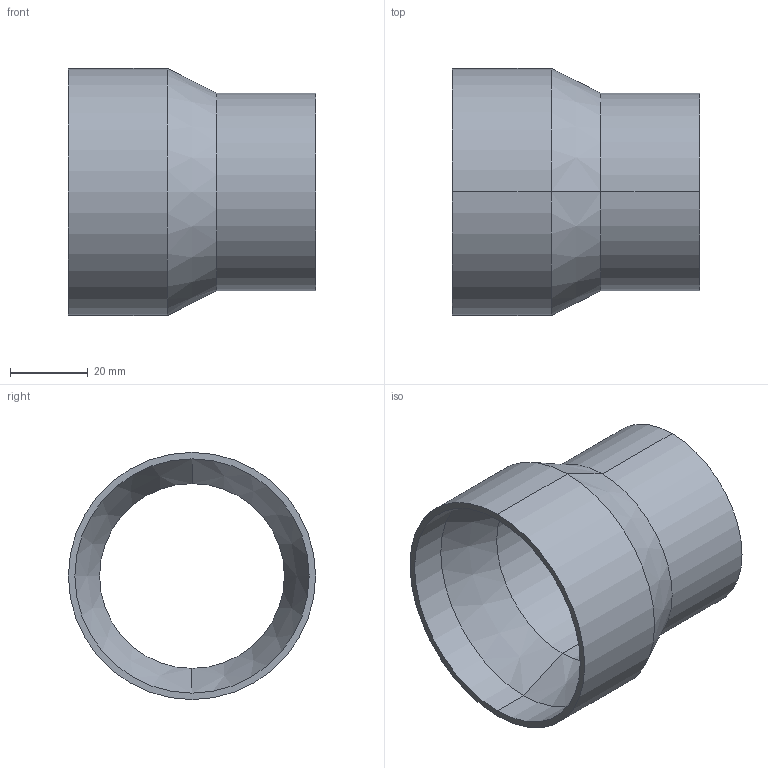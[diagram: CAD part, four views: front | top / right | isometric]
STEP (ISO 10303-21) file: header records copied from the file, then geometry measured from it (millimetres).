
FILE_DESCRIPTION (( 'STEP AP214' ), '1' );
FILE_NAME ('TE31SWW6L2.5x2.0-...STEP', '2016-05-29T09:50:28', ( 'eran' ), ( '' ), 'SwSTEP 2.0', 'SolidWorks 2016', '' );
FILE_SCHEMA (( 'AUTOMOTIVE_DESIGN' ));
Length unit declared in the file: millimetre
Products named in the file (1): TE31SWW6L2.5x2.0-..
Bounding box: 63.5 x 63.5 x 63.5 mm (x, y, z)
Volume: 34664.4 mm3; surface area: 22612.7 mm2
Topology: 1 solids, 1 shells, 14 faces, 28 edges, 16 vertices
Faces by surface type: cylinder 8, cone 4, plane 2
Entity records: 402 total; most frequent: DIRECTION 74, CARTESIAN_POINT 59, ORIENTED_EDGE 56, AXIS2_PLACEMENT_3D 31, EDGE_CURVE 28, VERTEX_POINT 16, CIRCLE 16, EDGE_LOOP 16
